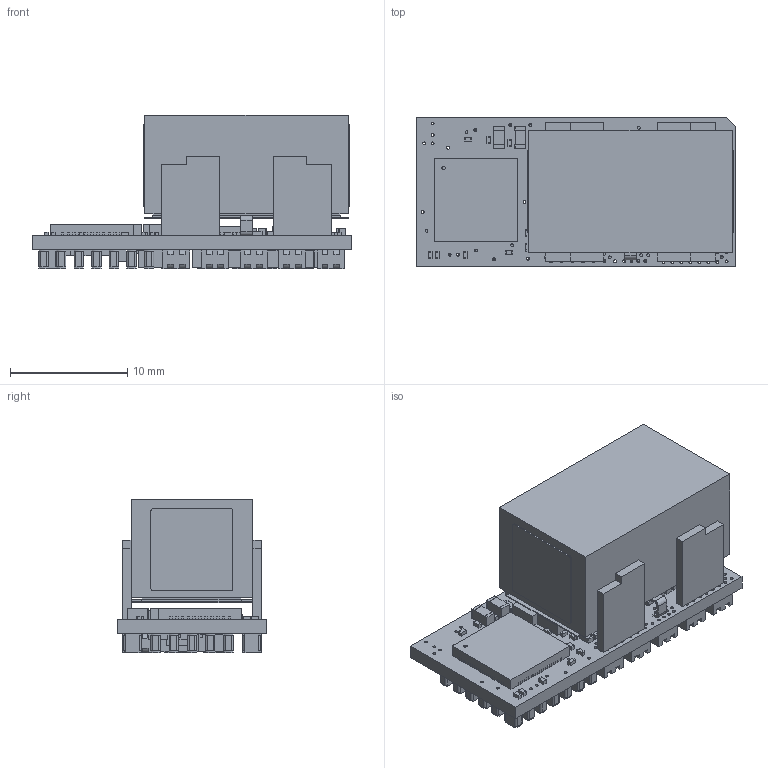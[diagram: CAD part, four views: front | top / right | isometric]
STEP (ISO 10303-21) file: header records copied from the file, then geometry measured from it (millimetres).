
FILE_DESCRIPTION((''),'2;1');
FILE_NAME('LGA110D-01DADJJB_MAIN_ASM','2023-07-20T10:18:52',('ALEX.WONG'),(''),'CREO PARAMETRIC BY PTC INC, 2020454','CREO PARAMETRIC BY PTC INC, 2020454','');
FILE_SCHEMA(('CONFIG_CONTROL_DESIGN','SHAPE_APPEARANCE_LAYERS_GROUPS'));
Length unit declared in the file: millimetre
Products named in the file (23): LGA110JJB_MAIN_0002; R-0201-SR; C-0603-180100100-SR; C-0201-SR; C-0805-SR; MLF44-THERMALPAD-SR; SOD882-SR; C-0402-SR; R-0402-SR; PQFN41-SR; C-0603-SR; 500-010380-0100-SR; 500-007120-0201-SR; LGA110JJB_MAIN_0002_ASM; CHK-SLA473817A-140K-SR_NEW; COPPER-PLATE; DOUBLE-TAPE; COPPER-PLATE_ASM; KAPTON-TAPE; LGA110D_INDUCTOR_ASM; LABEL-600_600; LABEL-PATENT; LGA110D-01DADJJB_MAIN_ASM
Assembly tree (126 placements, depth 4):
  LGA110D-01DADJJB_MAIN_ASM
    LGA110JJB_MAIN_0002_ASM
      LGA110JJB_MAIN_0002
      R-0201-SR  x25
      C-0603-180100100-SR  x3
      C-0201-SR  x6
      C-0805-SR  x17
      MLF44-THERMALPAD-SR
      SOD882-SR  x8
      C-0402-SR  x10
      R-0402-SR  x7
      PQFN41-SR  x2
      C-0603-SR  x3
      500-010380-0100-SR  x25
      500-007120-0201-SR  x9
    LGA110D_INDUCTOR_ASM
      CHK-SLA473817A-140K-SR_NEW
      COPPER-PLATE_ASM
        COPPER-PLATE
        DOUBLE-TAPE
      KAPTON-TAPE
    LABEL-600_600
    LABEL-PATENT
Bounding box: 27.3 x 12.8 x 13.1 mm (x, y, z)
Volume: 2397 mm3; surface area: 4204.7 mm2
Topology: 123 solids, 123 shells, 4359 faces, 11891 edges, 7802 vertices
Faces by surface type: plane 3539, cylinder 820
Entity records: 56114 total; most frequent: DIRECTION 8268, CARTESIAN_POINT 8148, ORIENTED_EDGE 7832, EDGE_CURVE 3916, VECTOR 2852, LINE 2852, AXIS2_PLACEMENT_3D 2708, PRESENTATION_STYLE_ASSIGNMENT 2614
